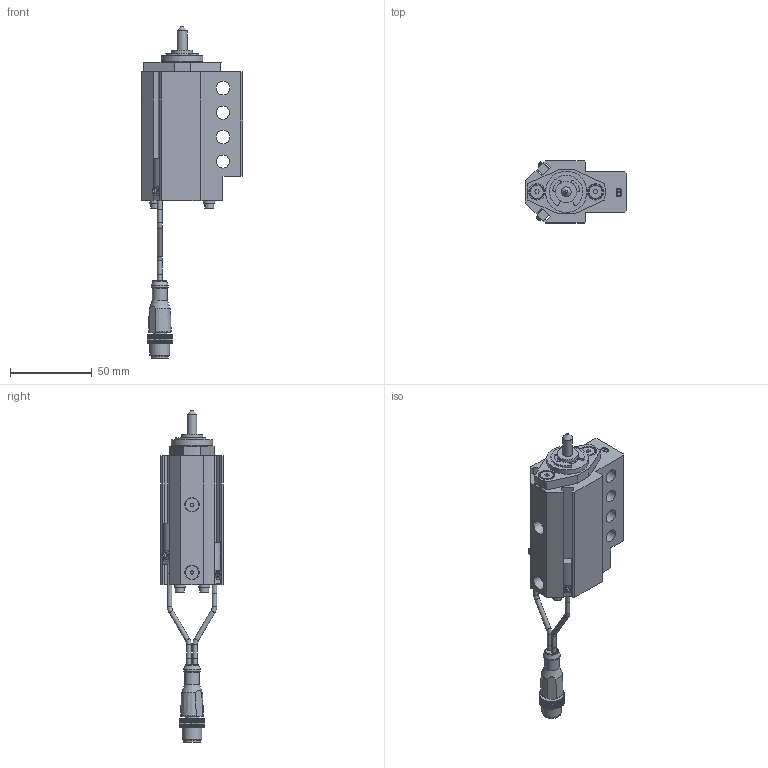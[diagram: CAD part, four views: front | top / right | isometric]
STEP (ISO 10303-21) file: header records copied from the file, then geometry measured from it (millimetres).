
FILE_DESCRIPTION(/* description */ ('NAAMS FLOATING MICRO PIN'),/* implementation_level */ '2;1');
FILE_NAME(/* name */ 'C:\Vault Workspace\CAD\Welker\Shot Pin\NMP\NMP060012BANL3.stp',/* time_stamp */ '2021-01-27T08:27:22-05:00',/* author */ ('KLabrecque'),/* organization */ (''),/* preprocessor_version */ 'ST-DEVELOPER v18.1',/* originating_system */ 'Autodesk Inventor 2020',/* authorisation */ '');
FILE_SCHEMA (('AUTOMOTIVE_DESIGN { 1 0 10303 214 3 1 1 }'));
Length unit declared in the file: millimetre
Products named in the file (16): NMPL01; NMP L3 SWITCH; L3 Connector; L3 Sensor 1; L3 Sensor 2; L3 Sensor cable; L3 Sensor cable 2; M3X0.5-8 SHCS; NL3; NMPE06; NMPE03; NMPE05-DIA-LENGTH; 985432A218; NMPE01B-PORT; RMPE02; M5X5 SHOULDER
Assembly tree (22 placements, depth 3):
  NMPL01
    NMP L3 SWITCH
      L3 Connector
      L3 Sensor 1
      L3 Sensor 2
      L3 Sensor cable
      L3 Sensor cable 2
    M3X0.5-8 SHCS  x4
    NL3  x4
    NMPE06
    NMPE03
    NMPE05-DIA-LENGTH
    985432A218
    NMPE01B-PORT
    RMPE02
    M5X5 SHOULDER  x2
Bounding box: 62 x 38.1 x 203.54 mm (x, y, z)
Volume: 110185.6 mm3; surface area: 45048.7 mm2
Topology: 21 solids, 21 shells, 758 faces, 2052 edges, 1372 vertices
Faces by surface type: plane 553, cylinder 144, cone 31, bspline 16, torus 11, sphere 3
Full cylindrical faces by diameter (mm): 2 x2, 2.459 x4, 2.9 x10, 3 x5, 3.242 x2, 3.4 x4, 4 x2, 5 x6, 5.5 x4, 6 x1, 7 x4, 8 x2, 8.3 x2, 8.376 x2, 9 x3, 10 x3, 10.4 x1, 10.5 x1, 12 x1, 13 x3, 16 x2, 19.05 x3, 21 x1, 22.5 x1, 23.672 x1, 24 x1, 25.4 x1, 25.5 x1, 26.5 x1, 28.677 x1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
Entity records: 23201 total; most frequent: CARTESIAN_POINT 4367, ORIENTED_EDGE 3802, DIRECTION 3727, EDGE_CURVE 1901, LINE 1393, VECTOR 1393, VERTEX_POINT 1277, AXIS2_PLACEMENT_3D 1167
